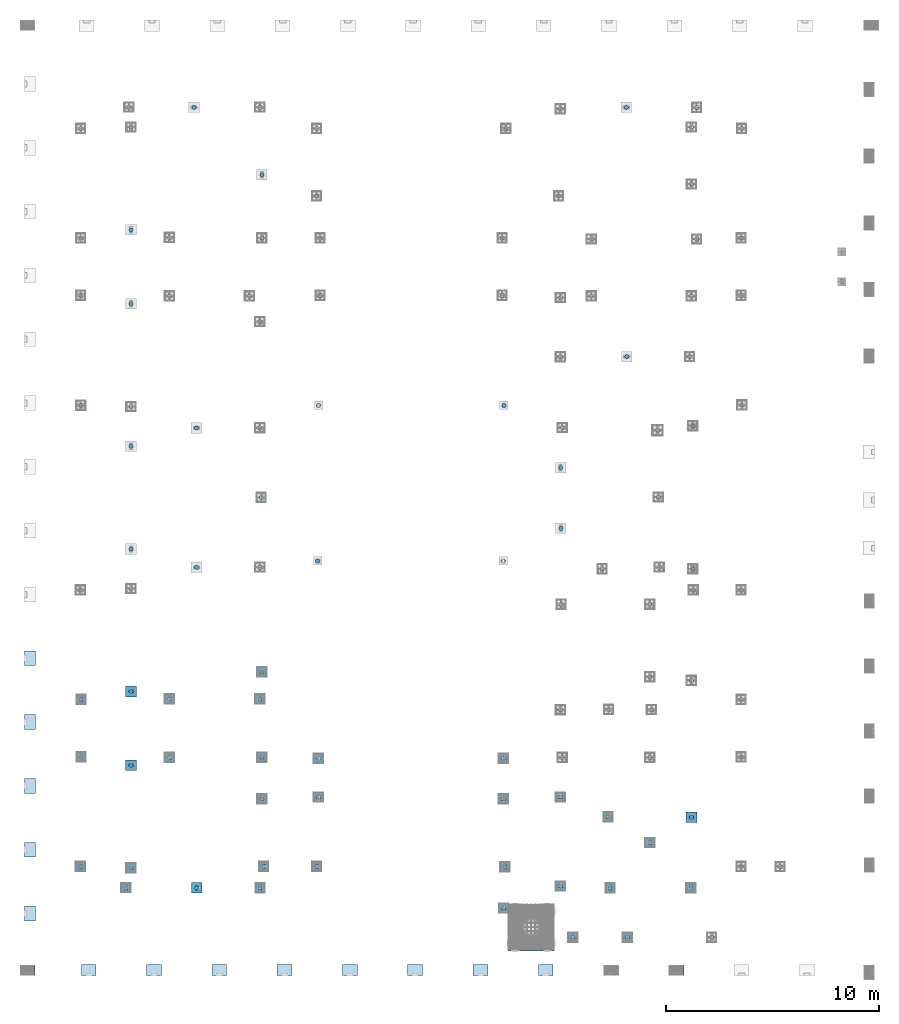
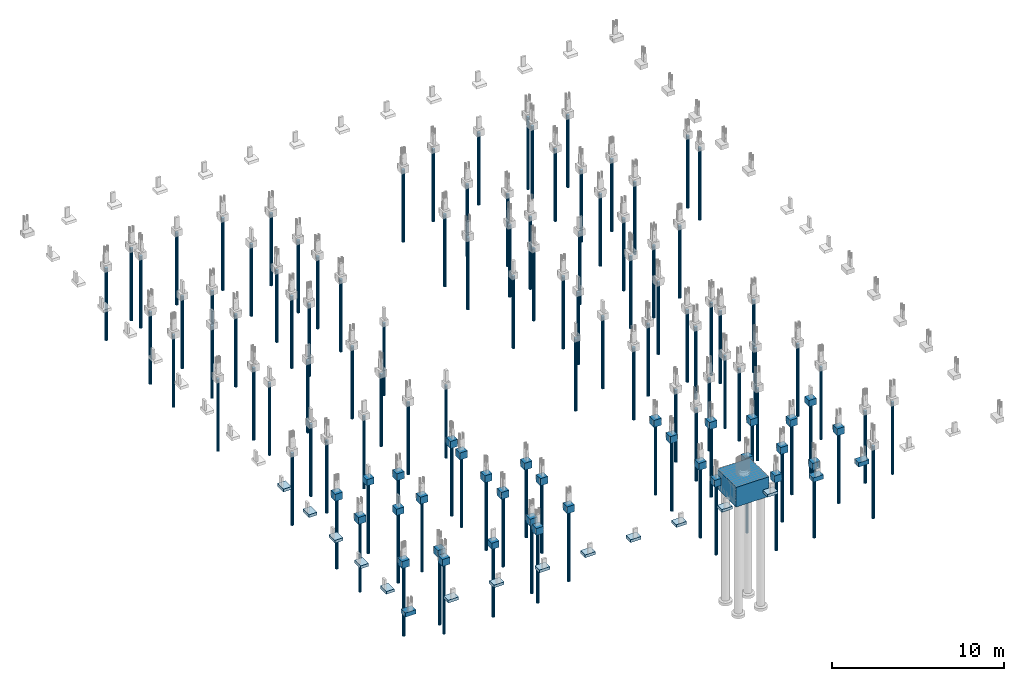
# One storey, part 1 of 119: 114 piles, 49 footings.
"""IFC4 building model written with IfcOpenShell, lengths in centimetres."""

import ifcopenshell
import ifcopenshell.guid

model = None  # the IFC model being written
_history = None  # IfcOwnerHistory: only IFC2X3 demands one
_inside = {}  # id of a spatial element -> (the spatial element, [elements in it])
_under = {}  # id of a project, library or spatial element -> (it, [spatial elements below it])
_declared = {}  # id of a project -> (the project, [libraries it declares])
_typed = {}  # id of a type object -> (the type object, [elements of that type])
_made_of = {}  # id of a material, layer set ... -> (it, [elements and type objects made of it])


def new_model(schema):
    """Start an empty IFC model of exactly this schema.

    Asked for "IFC4X3", IfcOpenShell would pick the latest addendum, in which some entities
    have other attributes; the version numbers below select the first issue.
    IFC2X3 requires an IfcOwnerHistory on every rooted entity: one is made here for all.
    """
    global model, _history
    if schema == "IFC4X3":
        model = ifcopenshell.file(schema_version=(4, 3, 0, 0))
    else:
        model = ifcopenshell.file(schema=schema)
    _inside.clear()
    _under.clear()
    _declared.clear()
    _typed.clear()
    _made_of.clear()
    _history = None
    if model.schema == "IFC2X3":
        org = make("IfcOrganization", Name="unknown")
        user = make(
            "IfcPersonAndOrganization",
            ThePerson=make("IfcPerson", FamilyName="unknown"),
            TheOrganization=org,
        )
        app = make(
            "IfcApplication",
            ApplicationDeveloper=org,
            Version="unknown",
            ApplicationFullName="unknown",
            ApplicationIdentifier="unknown",
        )
        _history = make(
            "IfcOwnerHistory",
            OwningUser=user,
            OwningApplication=app,
            ChangeAction="ADDED",
            CreationDate=0,
        )
    return model


def make(cls, **values):
    """One entity of the class cls with the attributes given. An attribute that is None is left unset."""
    return model.create_entity(
        cls, **{name: value for name, value in values.items() if value is not None}
    )


def rooted(cls, **values):
    """An entity with a GlobalId (a new one), such as an element, a storey or a relation."""
    return make(cls, GlobalId=ifcopenshell.guid.new(), OwnerHistory=_history, **values)


def si_unit(unit_type, name, prefix=None):
    """IfcSIUnit, for example si_unit("LENGTHUNIT", "METRE", prefix="MILLI")."""
    return make("IfcSIUnit", UnitType=unit_type, Prefix=prefix, Name=name)


def derived_unit(unit_type, elements):
    """IfcDerivedUnit: a product of units, each with its exponent."""
    return make(
        "IfcDerivedUnit",
        Elements=[
            make("IfcDerivedUnitElement", Unit=unit, Exponent=power)
            for unit, power in elements
        ],
        UnitType=unit_type,
    )


def assignment(units):
    """IfcUnitAssignment: the units of a project."""
    return None if units is None else make("IfcUnitAssignment", Units=units)


def point(xyz):
    """IfcCartesianPoint."""
    return None if xyz is None else make("IfcCartesianPoint", Coordinates=xyz)


def direction(xyz):
    """IfcDirection."""
    return None if xyz is None else make("IfcDirection", DirectionRatios=xyz)


def frame(location, z_axis=None, x_axis=None):
    """IfcAxis2Placement3D, a coordinate frame: its origin and axes. An axis left out is left unset."""
    return make(
        "IfcAxis2Placement3D",
        Location=point(location),
        Axis=direction(z_axis),
        RefDirection=direction(x_axis),
    )


def frame_2d(location, x_axis=None):
    """IfcAxis2Placement2D, a coordinate frame in the plane: its origin and x axis."""
    return make(
        "IfcAxis2Placement2D", Location=point(location), RefDirection=direction(x_axis)
    )


def origin_with_axes():
    """The frame at (0, 0, 0) with the z axis (0, 0, 1) and the x axis (1, 0, 0) written out."""
    return frame((0.0, 0.0, 0.0), z_axis=(0.0, 0.0, 1.0), x_axis=(1.0, 0.0, 0.0))


def origin_2d_with_axis():
    """The frame at (0, 0) in the plane with the x axis (1, 0) written out."""
    return frame_2d((0.0, 0.0), x_axis=(1.0, 0.0))


def place(relative_to, where):
    """IfcLocalPlacement: puts the frame where relative to a parent placement (None: the world)."""
    return make(
        "IfcLocalPlacement", PlacementRelTo=relative_to, RelativePlacement=where
    )


def context(
    kind, dimensions, precision=None, world=None, true_north=None, identifier=None
):
    """IfcGeometricRepresentationContext, for example the 3D "Model" context."""
    return make(
        "IfcGeometricRepresentationContext",
        ContextIdentifier=identifier,
        ContextType=kind,
        CoordinateSpaceDimension=dimensions,
        Precision=precision,
        WorldCoordinateSystem=world,
        TrueNorth=true_north,
    )


def project(units=None, contexts=None):
    """IfcProject with its units and contexts."""
    return rooted(
        "IfcProject",
        Name="project",
        RepresentationContexts=contexts,
        UnitsInContext=assignment(units),
    )


def spatial(cls, under=None, at=None, **own):
    """A site, building, storey or space (cls), placed at a placement, below another one or the project."""
    s = rooted(cls, ObjectPlacement=at, **own)
    if under is not None:
        _under.setdefault(under.id(), (under, []))[1].append(s)
    return s


def profile(cls, at=None, kind="AREA", **sizes):
    """A parametric profile (cls). Its sizes go by their IFC names, for example OverallWidth=200.0."""
    return make(cls, ProfileType=kind, Position=at, **sizes)


def circle(**sizes):
    """IfcCircleProfileDef."""
    return profile("IfcCircleProfileDef", **sizes)


def extrude(swept, where, along, depth):
    """IfcExtrudedAreaSolid: the profile swept, set in the frame where, extruded along a direction by depth."""
    return make(
        "IfcExtrudedAreaSolid",
        SweptArea=swept,
        Position=where,
        ExtrudedDirection=direction(along),
        Depth=depth,
    )


def faces_of(points, faces, orient=None, outer=None):
    """IfcFace entities. A face is a list of loops; a loop is a list of indices into points, from 0.

    orient and outer hold one flag for each loop. By default every Orientation is true, the
    first loop of a face is its IfcFaceOuterBound and the others are IfcFaceBound.
    """
    made = []
    for i, loops in enumerate(faces):
        bounds = []
        for j, loop in enumerate(loops):
            is_outer = j == 0 if outer is None else outer[i][j]
            bounds.append(
                make(
                    "IfcFaceOuterBound" if is_outer else "IfcFaceBound",
                    Bound=make("IfcPolyLoop", Polygon=[points[k] for k in loop]),
                    Orientation=True if orient is None else orient[i][j],
                )
            )
        made.append(make("IfcFace", Bounds=bounds))
    return made


def faceted_brep(points, faces, orient=None, outer=None, voids=None):
    """IfcFacetedBrep: a solid bounded by flat faces; with voids (closed shells), ...WithVoids."""
    shared = [point(p) for p in points]
    hull = make("IfcClosedShell", CfsFaces=faces_of(shared, faces, orient, outer))
    if voids is None:
        return make("IfcFacetedBrep", Outer=hull)
    return make(
        "IfcFacetedBrepWithVoids",
        Outer=hull,
        Voids=[
            make(cls, CfsFaces=faces_of(shared, fs, o, b)) for cls, fs, o, b in voids
        ],
    )


def shape(context_of_items, identifier, shape_type, items):
    """IfcShapeRepresentation: the items that make up one representation, for example the "Body"."""
    return make(
        "IfcShapeRepresentation",
        ContextOfItems=context_of_items,
        RepresentationIdentifier=identifier,
        RepresentationType=shape_type,
        Items=items,
    )


def material(Name=None, Category=None):
    """IfcMaterial."""
    return make("IfcMaterial", Name=Name, Category=Category)


def made_of(thing, what):
    """Note that an element or type object is made of a material, layer set ...; save() writes the relation."""
    if what is not None:
        _made_of.setdefault(what.id(), (what, []))[1].append(thing)
    return thing


def element(
    cls,
    number,
    at=None,
    inside=None,
    cuts=None,
    type_object=None,
    material=None,
    context=None,
    identifier="Body",
    shape_type=None,
    held_by="IfcProductDefinitionShape",
    body=None,
    shapes=None,
    **own,
):
    """One element of the class cls, such as IfcWall. Its Tag is "e" and its number.

    at: its placement. inside: the storey or other place that contains it. cuts: it is an
    opening in that element (IfcRelVoidsElement). A single representation is given by context,
    identifier, shape_type and body (its items); several are given by shapes. held_by: the class
    of the entity that holds the representations. save() writes the other relations.
    """
    e = rooted(cls, Tag="e%d" % number, ObjectPlacement=at, **own)
    if body is not None:
        shapes = [shape(context, identifier, shape_type, body)]
    if shapes is not None:
        e.Representation = make(held_by, Representations=shapes)
    if inside is not None:
        _inside.setdefault(inside.id(), (inside, []))[1].append(e)
    if cuts is not None:
        rooted(
            "IfcRelVoidsElement", RelatingBuildingElement=cuts, RelatedOpeningElement=e
        )
    if type_object is not None:
        _typed.setdefault(type_object.id(), (type_object, []))[1].append(e)
    return made_of(e, material)


def aggregate(whole, parts):
    """IfcRelAggregates: a whole, such as a stair, and the parts it consists of."""
    return rooted("IfcRelAggregates", RelatingObject=whole, RelatedObjects=parts)


def save(model, path):
    """Write the relations noted so far, then the file.

    IfcRelAggregates (storeys below a building ...), IfcRelContainedInSpatialStructure (elements
    in a storey), IfcRelDefinesByType, IfcRelAssociatesMaterial and IfcRelDeclares: one each for
    every whole, place, type object, material and project.
    """
    for whole, parts in _under.values():
        aggregate(whole, parts)
    for where, things in _inside.values():
        rooted(
            "IfcRelContainedInSpatialStructure",
            RelatedElements=things,
            RelatingStructure=where,
        )
    for kind, things in _typed.values():
        rooted("IfcRelDefinesByType", RelatedObjects=things, RelatingType=kind)
    for what, things in _made_of.values():
        rooted("IfcRelAssociatesMaterial", RelatedObjects=things, RelatingMaterial=what)
    for by, libraries in _declared.values():
        rooted("IfcRelDeclares", RelatingContext=by, RelatedDefinitions=libraries)
    model.write(path)


model = new_model("IFC4")

# Units and contexts
model_context = context("Model", 3, precision=1e-05, world=origin_with_axes(), identifier="Body")
ifc_project = project(units=[si_unit("LENGTHUNIT", "METRE", prefix="CENTI"), si_unit("VOLUMEUNIT", "CUBIC_METRE"), si_unit("AREAUNIT", "SQUARE_METRE"), si_unit("POWERUNIT", "WATT"), si_unit("LUMINOUSFLUXUNIT", "LUMEN"), si_unit("ELECTRICCURRENTUNIT", "AMPERE"), si_unit("PRESSUREUNIT", "PASCAL", prefix="KILO"), si_unit("MASSUNIT", "GRAM", prefix="KILO"), si_unit("PLANEANGLEUNIT", "RADIAN"), derived_unit("VOLUMETRICFLOWRATEUNIT", [(si_unit("LENGTHUNIT", "METRE"), 3), (si_unit("TIMEUNIT", "SECOND"), -1)])], contexts=[model_context])

# Site, building, storey
site_placement = place(None, frame((-4000.0, 0.0, 0.0), z_axis=(0.0, 0.0, 1.0), x_axis=(1.0, 0.0, 0.0)))
site = spatial("IfcSite", under=ifc_project, at=site_placement, Name="PADRÃO")
building_placement = place(site_placement, frame((0.0, 0.0, -14.0)))
building = spatial("IfcBuilding", under=site, at=building_placement, Name="CRECHE PRÉ-ESCOLA TIPO 2")
storey_placement = place(building_placement, origin_with_axes())
storey = spatial("IfcBuildingStorey", under=building, at=storey_placement, Name="FUNDAÇÃO", CompositionType="ELEMENT", Elevation=-14.0)

# Footings
ifc_material = material(Name="Concreto")
footing_1_placement = place(storey_placement, frame((28.5, 1494.5, -69.0), z_axis=(0.0, 0.0, 1.0), x_axis=(1.0, 0.0, 0.0)))
element("IfcFooting", 1, at=footing_1_placement, inside=storey, material=ifc_material, Name="P101", PredefinedType="PAD_FOOTING", context=model_context, shape_type="SolidModel", body=[
    faceted_brep([(-27.0, 35.0, -20.0), (27.0, 35.0, -20.0), (27.0, -35.0, -20.0), (-27.0, -35.0, -20.0), (-27.0, -35.0, 0.0), (27.0, -35.0, 0.0), (27.0, 35.0, 0.0), (-27.0, 35.0, 0.0)], [[[0, 1, 2, 3]], [[4, 5, 6, 7]], [[4, 3, 5]], [[3, 2, 5]], [[5, 2, 6]], [[2, 1, 6]], [[6, 1, 7]], [[1, 0, 7]], [[7, 0, 4]], [[0, 3, 4]]]),
])
footing_2_placement = place(storey_placement, frame((1118.72, 1430.5, -80.0), z_axis=(0.0, 0.0, 1.0), x_axis=(1.0, 0.0, 0.0)))
element("IfcFooting", 2, at=footing_2_placement, inside=storey, material=ifc_material, Name="P102", context=model_context, shape_type="SolidModel", body=[
    faceted_brep([(25.0, 25.0, -50.0), (25.0, -25.0, -50.0), (-25.0, -25.0, -50.0), (-25.0, 25.0, -50.0), (-25.0, 25.0, 0.0), (-25.0, -25.0, 0.0), (25.0, -25.0, 0.0), (25.0, 25.0, 0.0)], [[[0, 1, 2, 3]], [[4, 5, 6, 7]], [[4, 3, 5]], [[3, 2, 5]], [[5, 2, 6]], [[2, 1, 6]], [[6, 1, 7]], [[1, 0, 7]], [[7, 0, 4]], [[0, 3, 4]]]),
])
footing_3_placement = place(storey_placement, frame((269.5, 1301.5, -80.0), z_axis=(0.0, 0.0, 1.0), x_axis=(1.0, 0.0, 0.0)))
element("IfcFooting", 3, at=footing_3_placement, inside=storey, material=ifc_material, Name="P106", context=model_context, shape_type="SolidModel", body=[
    faceted_brep([(25.0, -25.0, -50.0), (-25.0, -25.0, -50.0), (-25.0, 25.0, -50.0), (25.0, 25.0, -50.0), (25.0, 25.0, 0.0), (-25.0, 25.0, 0.0), (-25.0, -25.0, 0.0), (25.0, -25.0, 0.0)], [[[0, 1, 2, 3]], [[4, 5, 6, 7]], [[4, 3, 5]], [[3, 2, 5]], [[5, 2, 6]], [[2, 1, 6]], [[6, 1, 7]], [[1, 0, 7]], [[7, 0, 4]], [[0, 3, 4]]]),
])
footing_4_placement = place(storey_placement, frame((503.69, 1338.51, -80.0), z_axis=(0.0, 0.0, 1.0), x_axis=(1.0, 0.0, 0.0)))
element("IfcFooting", 4, at=footing_4_placement, inside=storey, material=ifc_material, Name="P107", context=model_context, shape_type="SolidModel", body=[
    faceted_brep([(25.0, 25.0, -45.0), (25.0, -25.0, -45.0), (-25.0, -25.0, -45.0), (-25.0, 25.0, -45.0), (-25.0, 25.0, 0.0), (-25.0, -25.0, 0.0), (25.0, -25.0, 0.0), (25.0, 25.0, 0.0)], [[[0, 1, 2, 3]], [[4, 5, 6, 7]], [[4, 3, 5]], [[3, 2, 5]], [[5, 2, 6]], [[2, 1, 6]], [[6, 1, 7]], [[1, 0, 7]], [[7, 0, 4]], [[0, 3, 4]]]),
])
footing_5_placement = place(storey_placement, frame((685.0, 1302.5, -80.0), z_axis=(0.0, 0.0, 1.0), x_axis=(1.0, 0.0, 0.0)))
element("IfcFooting", 5, at=footing_5_placement, inside=storey, material=ifc_material, Name="P108", context=model_context, shape_type="SolidModel", body=[
    faceted_brep([(25.0, -25.0, -50.0), (-25.0, -25.0, -50.0), (-25.0, 25.0, -50.0), (25.0, 25.0, -50.0), (25.0, 25.0, 0.0), (-25.0, 25.0, 0.0), (-25.0, -25.0, 0.0), (25.0, -25.0, 0.0)], [[[0, 1, 2, 3]], [[4, 5, 6, 7]], [[4, 3, 5]], [[3, 2, 5]], [[5, 2, 6]], [[2, 1, 6]], [[6, 1, 7]], [[1, 0, 7]], [[7, 0, 4]], [[0, 3, 4]]]),
])
footing_6_placement = place(storey_placement, frame((1109.72, 1302.5, -80.0), z_axis=(0.0, 0.0, 1.0), x_axis=(1.0, 0.0, 0.0)))
element("IfcFooting", 6, at=footing_6_placement, inside=storey, material=ifc_material, Name="P109", context=model_context, shape_type="SolidModel", body=[
    faceted_brep([(-25.0, 25.0, -50.0), (25.0, 25.0, -50.0), (25.0, -25.0, -50.0), (-25.0, -25.0, -50.0), (-25.0, -25.0, 0.0), (25.0, -25.0, 0.0), (25.0, 25.0, 0.0), (-25.0, 25.0, 0.0)], [[[0, 1, 2, 3]], [[4, 5, 6, 7]], [[4, 3, 5]], [[3, 2, 5]], [[5, 2, 6]], [[2, 1, 6]], [[6, 1, 7]], [[1, 0, 7]], [[7, 0, 4]], [[0, 3, 4]]]),
])
footing_7_placement = place(storey_placement, frame((28.5, 1194.5, -69.0), z_axis=(0.0, 0.0, 1.0), x_axis=(1.0, 0.0, 0.0)))
element("IfcFooting", 7, at=footing_7_placement, inside=storey, material=ifc_material, Name="P114", PredefinedType="PAD_FOOTING", context=model_context, shape_type="SolidModel", body=[
    faceted_brep([(-27.0, 35.0, -20.0), (27.0, 35.0, -20.0), (27.0, -35.0, -20.0), (-27.0, -35.0, -20.0), (-27.0, -35.0, 0.0), (27.0, -35.0, 0.0), (27.0, 35.0, 0.0), (-27.0, 35.0, 0.0)], [[[0, 1, 2, 3]], [[4, 5, 6, 7]], [[4, 3, 5]], [[3, 2, 5]], [[5, 2, 6]], [[2, 1, 6]], [[6, 1, 7]], [[1, 0, 7]], [[7, 0, 4]], [[0, 3, 4]]]),
])
footing_8_placement = place(storey_placement, frame((269.5, 1030.5, -80.0), z_axis=(0.0, 0.0, 1.0), x_axis=(1.0, 0.0, 0.0)))
element("IfcFooting", 8, at=footing_8_placement, inside=storey, material=ifc_material, Name="P116", context=model_context, shape_type="SolidModel", body=[
    faceted_brep([(25.0, -25.0, -50.0), (-25.0, -25.0, -50.0), (-25.0, 25.0, -50.0), (25.0, 25.0, -50.0), (25.0, 25.0, 0.0), (-25.0, 25.0, 0.0), (-25.0, -25.0, 0.0), (25.0, -25.0, 0.0)], [[[0, 1, 2, 3]], [[4, 5, 6, 7]], [[4, 3, 5]], [[3, 2, 5]], [[5, 2, 6]], [[2, 1, 6]], [[6, 1, 7]], [[1, 0, 7]], [[7, 0, 4]], [[0, 3, 4]]]),
])
footing_9_placement = place(storey_placement, frame((503.57, 991.51, -80.0), z_axis=(0.0, 0.0, 1.0), x_axis=(1.0, 0.0, 0.0)))
element("IfcFooting", 9, at=footing_9_placement, inside=storey, material=ifc_material, Name="P117", context=model_context, shape_type="SolidModel", body=[
    faceted_brep([(25.0, 25.0, -45.0), (25.0, -25.0, -45.0), (-25.0, -25.0, -45.0), (-25.0, 25.0, -45.0), (-25.0, 25.0, 0.0), (-25.0, -25.0, 0.0), (25.0, -25.0, 0.0), (25.0, 25.0, 0.0)], [[[0, 1, 2, 3]], [[4, 5, 6, 7]], [[4, 3, 5]], [[3, 2, 5]], [[5, 2, 6]], [[2, 1, 6]], [[6, 1, 7]], [[1, 0, 7]], [[7, 0, 4]], [[0, 3, 4]]]),
])
footing_10_placement = place(storey_placement, frame((685.0, 1027.51, -80.0), z_axis=(0.0, 0.0, 1.0), x_axis=(1.0, 0.0, 0.0)))
element("IfcFooting", 10, at=footing_10_placement, inside=storey, material=ifc_material, Name="P118", context=model_context, shape_type="SolidModel", body=[
    faceted_brep([(25.0, -25.0, -50.0), (-25.0, -25.0, -50.0), (-25.0, 25.0, -50.0), (25.0, 25.0, -50.0), (25.0, 25.0, 0.0), (-25.0, 25.0, 0.0), (-25.0, -25.0, 0.0), (25.0, -25.0, 0.0)], [[[0, 1, 2, 3]], [[4, 5, 6, 7]], [[4, 3, 5]], [[3, 2, 5]], [[5, 2, 6]], [[2, 1, 6]], [[6, 1, 7]], [[1, 0, 7]], [[7, 0, 4]], [[0, 3, 4]]]),
])
footing_11_placement = place(storey_placement, frame((1118.72, 1028.5, -80.0), z_axis=(0.0, 0.0, 1.0), x_axis=(1.0, 0.0, 0.0)))
element("IfcFooting", 11, at=footing_11_placement, inside=storey, material=ifc_material, Name="P119", context=model_context, shape_type="SolidModel", body=[
    faceted_brep([(25.0, 25.0, -50.0), (25.0, -25.0, -50.0), (-25.0, -25.0, -50.0), (-25.0, 25.0, -50.0), (-25.0, 25.0, 0.0), (-25.0, -25.0, 0.0), (25.0, -25.0, 0.0), (25.0, 25.0, 0.0)], [[[0, 1, 2, 3]], [[4, 5, 6, 7]], [[4, 3, 5]], [[3, 2, 5]], [[5, 2, 6]], [[2, 1, 6]], [[6, 1, 7]], [[1, 0, 7]], [[7, 0, 4]], [[0, 3, 4]]]),
])
footing_12_placement = place(storey_placement, frame((1384.84, 1023.51, -80.0), z_axis=(0.0, 0.0, 1.0), x_axis=(1.0, 0.0, 0.0)))
element("IfcFooting", 12, at=footing_12_placement, inside=storey, material=ifc_material, Name="P120", context=model_context, shape_type="SolidModel", body=[
    faceted_brep([(-25.0, -25.0, -50.0), (-25.0, 25.0, -50.0), (25.0, 25.0, -50.0), (25.0, -25.0, -50.0), (25.0, -25.0, 0.0), (25.0, 25.0, 0.0), (-25.0, 25.0, 0.0), (-25.0, -25.0, 0.0)], [[[0, 1, 2, 3]], [[4, 5, 6, 7]], [[4, 3, 5]], [[3, 2, 5]], [[5, 2, 6]], [[2, 1, 6]], [[6, 1, 7]], [[1, 0, 7]], [[7, 0, 4]], [[0, 3, 4]]]),
])
footing_13_placement = place(storey_placement, frame((2254.49, 1023.51, -80.0), z_axis=(0.0, 0.0, 1.0), x_axis=(1.0, 0.0, 0.0)))
element("IfcFooting", 13, at=footing_13_placement, inside=storey, material=ifc_material, Name="P121", context=model_context, shape_type="SolidModel", body=[
    faceted_brep([(25.0, 25.0, -50.0), (25.0, -25.0, -50.0), (-25.0, -25.0, -50.0), (-25.0, 25.0, -50.0), (-25.0, 25.0, 0.0), (-25.0, -25.0, 0.0), (25.0, -25.0, 0.0), (25.0, 25.0, 0.0)], [[[0, 1, 2, 3]], [[4, 5, 6, 7]], [[4, 3, 5]], [[3, 2, 5]], [[5, 2, 6]], [[2, 1, 6]], [[6, 1, 7]], [[1, 0, 7]], [[7, 0, 4]], [[0, 3, 4]]]),
])
footing_14_placement = place(storey_placement, frame((28.5, 894.5, -69.0), z_axis=(0.0, 0.0, 1.0), x_axis=(1.0, 0.0, 0.0)))
element("IfcFooting", 14, at=footing_14_placement, inside=storey, material=ifc_material, Name="P125", PredefinedType="PAD_FOOTING", context=model_context, shape_type="SolidModel", body=[
    faceted_brep([(-27.0, 35.0, -20.0), (27.0, 35.0, -20.0), (27.0, -35.0, -20.0), (-27.0, -35.0, -20.0), (-27.0, -35.0, 0.0), (27.0, -35.0, 0.0), (27.0, 35.0, 0.0), (-27.0, 35.0, 0.0)], [[[0, 1, 2, 3]], [[4, 5, 6, 7]], [[4, 3, 5]], [[3, 2, 5]], [[5, 2, 6]], [[2, 1, 6]], [[6, 1, 7]], [[1, 0, 7]], [[7, 0, 4]], [[0, 3, 4]]]),
])
for number, where, z_axis, x_axis, name in (
    (15, (1118.72, 833.5, -80.0), (0.0, 0.0, 1.0), (1.0, 0.0, 0.0), "P126"),
    (16, (1384.84, 841.1, -80.0), (0.0, 0.0, 1.0), (1.0, 0.0, 0.0), "P127"),
    (17, (2254.49, 832.52, -80.0), (0.0, 0.0, 1.0), (1.0, 0.0, 0.0), "P128"),
    (18, (2523.5, 841.52, -80.0), (0.0, 0.0, 1.0), (1.0, 0.0, 0.0), "P129"),
    (19, (2747.52, 749.08, -80.0), (0.0, 0.0, 1.0), (1.0, 0.0, 0.0), "P131"),
):
    element("IfcFooting", number, at=place(storey_placement, frame(where, z_axis=z_axis, x_axis=x_axis)), inside=storey, material=ifc_material, Name=name, context=model_context, shape_type="SolidModel", body=[
        faceted_brep([(25.0, 25.0, -50.0), (25.0, -25.0, -50.0), (-25.0, -25.0, -50.0), (-25.0, 25.0, -50.0), (-25.0, 25.0, 0.0), (-25.0, -25.0, 0.0), (25.0, -25.0, 0.0), (25.0, 25.0, 0.0)], [[[0, 1, 2, 3]], [[4, 5, 6, 7]], [[4, 3, 5]], [[3, 2, 5]], [[5, 2, 6]], [[2, 1, 6]], [[6, 1, 7]], [[1, 0, 7]], [[7, 0, 4]], [[0, 3, 4]]]),
    ])
footing_15_placement = place(storey_placement, frame((3138.5, 746.58, -80.0), z_axis=(0.0, 0.0, 1.0), x_axis=(1.0, 0.0, 0.0)))
element("IfcFooting", 20, at=footing_15_placement, inside=storey, material=ifc_material, Name="P132", context=model_context, shape_type="SolidModel", body=[
    faceted_brep([(25.0, 25.0, -45.0), (25.0, -25.0, -45.0), (-25.0, -25.0, -45.0), (-25.0, 25.0, -45.0), (-25.0, 25.0, 0.0), (-25.0, -25.0, 0.0), (25.0, -25.0, 0.0), (25.0, 25.0, 0.0)], [[[0, 1, 2, 3]], [[4, 5, 6, 7]], [[4, 3, 5]], [[3, 2, 5]], [[5, 2, 6]], [[2, 1, 6]], [[6, 1, 7]], [[1, 0, 7]], [[7, 0, 4]], [[0, 3, 4]]]),
])
footing_16_placement = place(storey_placement, frame((28.5, 594.5, -69.0), z_axis=(0.0, 0.0, 1.0), x_axis=(1.0, 0.0, 0.0)))
element("IfcFooting", 21, at=footing_16_placement, inside=storey, material=ifc_material, Name="P133", PredefinedType="PAD_FOOTING", context=model_context, shape_type="SolidModel", body=[
    faceted_brep([(-27.0, 35.0, -20.0), (27.0, 35.0, -20.0), (27.0, -35.0, -20.0), (-27.0, -35.0, -20.0), (-27.0, -35.0, 0.0), (27.0, -35.0, 0.0), (27.0, 35.0, 0.0), (-27.0, 35.0, 0.0)], [[[0, 1, 2, 3]], [[4, 5, 6, 7]], [[4, 3, 5]], [[3, 2, 5]], [[5, 2, 6]], [[2, 1, 6]], [[6, 1, 7]], [[1, 0, 7]], [[7, 0, 4]], [[0, 3, 4]]]),
])
footing_17_placement = place(storey_placement, frame((2943.45, 627.58, -80.0), z_axis=(0.0, 0.0, 1.0), x_axis=(1.0, 0.0, 0.0)))
element("IfcFooting", 22, at=footing_17_placement, inside=storey, material=ifc_material, Name="P134", context=model_context, shape_type="SolidModel", body=[
    faceted_brep([(-25.0, 25.0, -50.0), (25.0, 25.0, -50.0), (25.0, -25.0, -50.0), (-25.0, -25.0, -50.0), (-25.0, -25.0, 0.0), (25.0, -25.0, 0.0), (25.0, 25.0, 0.0), (-25.0, 25.0, 0.0)], [[[0, 1, 2, 3]], [[4, 5, 6, 7]], [[4, 3, 5]], [[3, 2, 5]], [[5, 2, 6]], [[2, 1, 6]], [[6, 1, 7]], [[1, 0, 7]], [[7, 0, 4]], [[0, 3, 4]]]),
])
footing_18_placement = place(storey_placement, frame((266.0, 515.0, -80.0), z_axis=(0.0, 0.0, 1.0), x_axis=(1.0, 0.0, 0.0)))
element("IfcFooting", 23, at=footing_18_placement, inside=storey, material=ifc_material, Name="P135", context=model_context, shape_type="SolidModel", body=[
    faceted_brep([(25.0, -25.0, -50.0), (-25.0, -25.0, -50.0), (-25.0, 25.0, -50.0), (25.0, 25.0, -50.0), (25.0, 25.0, 0.0), (-25.0, 25.0, 0.0), (-25.0, -25.0, 0.0), (25.0, -25.0, 0.0)], [[[0, 1, 2, 3]], [[4, 5, 6, 7]], [[4, 3, 5]], [[3, 2, 5]], [[5, 2, 6]], [[2, 1, 6]], [[6, 1, 7]], [[1, 0, 7]], [[7, 0, 4]], [[0, 3, 4]]]),
])
footing_19_placement = place(storey_placement, frame((503.57, 508.51, -80.0), z_axis=(0.0, 0.0, 1.0), x_axis=(1.0, 0.0, 0.0)))
element("IfcFooting", 24, at=footing_19_placement, inside=storey, material=ifc_material, Name="P136", context=model_context, shape_type="SolidModel", body=[
    faceted_brep([(25.0, 25.0, -50.0), (25.0, -25.0, -50.0), (-25.0, -25.0, -50.0), (-25.0, 25.0, -50.0), (-25.0, 25.0, 0.0), (-25.0, -25.0, 0.0), (25.0, -25.0, 0.0), (25.0, 25.0, 0.0)], [[[0, 1, 2, 3]], [[4, 5, 6, 7]], [[4, 3, 5]], [[3, 2, 5]], [[5, 2, 6]], [[2, 1, 6]], [[6, 1, 7]], [[1, 0, 7]], [[7, 0, 4]], [[0, 3, 4]]]),
])
for number, where, z_axis, x_axis, name in (
    (25, (1127.72, 515.01, -80.0), (0.0, 0.0, 1.0), (1.0, 0.0, 0.0), "P137"),
    (26, (1376.84, 515.01, -80.0), (0.0, 0.0, 1.0), (1.0, 0.0, 0.0), "P138"),
):
    element("IfcFooting", number, at=place(storey_placement, frame(where, z_axis=z_axis, x_axis=x_axis)), inside=storey, material=ifc_material, Name=name, context=model_context, shape_type="SolidModel", body=[
        faceted_brep([(25.0, -25.0, -50.0), (-25.0, -25.0, -50.0), (-25.0, 25.0, -50.0), (25.0, 25.0, -50.0), (25.0, 25.0, 0.0), (-25.0, 25.0, 0.0), (-25.0, -25.0, 0.0), (25.0, -25.0, 0.0)], [[[0, 1, 2, 3]], [[4, 5, 6, 7]], [[4, 3, 5]], [[3, 2, 5]], [[5, 2, 6]], [[2, 1, 6]], [[6, 1, 7]], [[1, 0, 7]], [[7, 0, 4]], [[0, 3, 4]]]),
    ])
footing_20_placement = place(storey_placement, frame((2262.48, 513.52, -80.0), z_axis=(0.0, 0.0, 1.0), x_axis=(1.0, 0.0, 0.0)))
element("IfcFooting", 27, at=footing_20_placement, inside=storey, material=ifc_material, Name="P139", context=model_context, shape_type="SolidModel", body=[
    faceted_brep([(-25.0, 25.0, -50.0), (25.0, 25.0, -50.0), (25.0, -25.0, -50.0), (-25.0, -25.0, -50.0), (-25.0, -25.0, 0.0), (25.0, -25.0, 0.0), (25.0, 25.0, 0.0), (-25.0, 25.0, 0.0)], [[[0, 1, 2, 3]], [[4, 5, 6, 7]], [[4, 3, 5]], [[3, 2, 5]], [[5, 2, 6]], [[2, 1, 6]], [[6, 1, 7]], [[1, 0, 7]], [[7, 0, 4]], [[0, 3, 4]]]),
])
footing_21_placement = place(storey_placement, frame((480.0, 416.0, -80.0), z_axis=(0.0, 0.0, 1.0), x_axis=(1.0, 0.0, 0.0)))
element("IfcFooting", 28, at=footing_21_placement, inside=storey, material=ifc_material, Name="P143", context=model_context, shape_type="SolidModel", body=[
    faceted_brep([(25.0, -25.0, -50.0), (-25.0, -25.0, -50.0), (-25.0, 25.0, -50.0), (25.0, 25.0, -50.0), (25.0, 25.0, 0.0), (-25.0, 25.0, 0.0), (-25.0, -25.0, 0.0), (25.0, -25.0, 0.0)], [[[0, 1, 2, 3]], [[4, 5, 6, 7]], [[4, 3, 5]], [[3, 2, 5]], [[5, 2, 6]], [[2, 1, 6]], [[6, 1, 7]], [[1, 0, 7]], [[7, 0, 4]], [[0, 3, 4]]]),
])
footing_22_placement = place(storey_placement, frame((811.79, 415.0, -80.0), z_axis=(0.0, 0.0, 1.0), x_axis=(1.0, 0.0, 0.0)))
element("IfcFooting", 29, at=footing_22_placement, inside=storey, material=ifc_material, Name="P144", context=model_context, shape_type="SolidModel", body=[
    faceted_brep([(25.0, -25.0, -45.0), (-25.0, -25.0, -45.0), (-25.0, 25.0, -45.0), (25.0, 25.0, -45.0), (25.0, 25.0, 0.0), (-25.0, 25.0, 0.0), (-25.0, -25.0, 0.0), (25.0, -25.0, 0.0)], [[[0, 1, 2, 3]], [[4, 5, 6, 7]], [[4, 3, 5]], [[3, 2, 5]], [[5, 2, 6]], [[2, 1, 6]], [[6, 1, 7]], [[1, 0, 7]], [[7, 0, 4]], [[0, 3, 4]]]),
])
footing_23_placement = place(storey_placement, frame((1110.72, 415.01, -80.0), z_axis=(0.0, 0.0, 1.0), x_axis=(1.0, 0.0, 0.0)))
element("IfcFooting", 30, at=footing_23_placement, inside=storey, material=ifc_material, Name="P145", context=model_context, shape_type="SolidModel", body=[
    faceted_brep([(25.0, -25.0, -50.0), (-25.0, -25.0, -50.0), (-25.0, 25.0, -50.0), (25.0, 25.0, -50.0), (25.0, 25.0, 0.0), (-25.0, 25.0, 0.0), (-25.0, -25.0, 0.0), (25.0, -25.0, 0.0)], [[[0, 1, 2, 3]], [[4, 5, 6, 7]], [[4, 3, 5]], [[3, 2, 5]], [[5, 2, 6]], [[2, 1, 6]], [[6, 1, 7]], [[1, 0, 7]], [[7, 0, 4]], [[0, 3, 4]]]),
])
footing_24_placement = place(storey_placement, frame((2523.5, 423.02, -80.0), z_axis=(0.0, 0.0, 1.0), x_axis=(1.0, 0.0, 0.0)))
element("IfcFooting", 31, at=footing_24_placement, inside=storey, material=ifc_material, Name="P146", context=model_context, shape_type="SolidModel", body=[
    faceted_brep([(25.0, 25.0, -50.0), (25.0, -25.0, -50.0), (-25.0, -25.0, -50.0), (-25.0, 25.0, -50.0), (-25.0, 25.0, 0.0), (-25.0, -25.0, 0.0), (25.0, -25.0, 0.0), (25.0, 25.0, 0.0)], [[[0, 1, 2, 3]], [[4, 5, 6, 7]], [[4, 3, 5]], [[3, 2, 5]], [[5, 2, 6]], [[2, 1, 6]], [[6, 1, 7]], [[1, 0, 7]], [[7, 0, 4]], [[0, 3, 4]]]),
])
for number, where, z_axis, x_axis, name in (
    (32, (2756.46, 415.01, -80.0), (0.0, 0.0, 1.0), (1.0, 0.0, 0.0), "P147"),
    (33, (3136.0, 415.01, -80.0), (0.0, 0.0, 1.0), (1.0, 0.0, 0.0), "P148"),
):
    element("IfcFooting", number, at=place(storey_placement, frame(where, z_axis=z_axis, x_axis=x_axis)), inside=storey, material=ifc_material, Name=name, context=model_context, shape_type="SolidModel", body=[
        faceted_brep([(-25.0, 25.0, -50.0), (25.0, 25.0, -50.0), (25.0, -25.0, -50.0), (-25.0, -25.0, -50.0), (-25.0, -25.0, 0.0), (25.0, -25.0, 0.0), (25.0, 25.0, 0.0), (-25.0, 25.0, 0.0)], [[[0, 1, 2, 3]], [[4, 5, 6, 7]], [[4, 3, 5]], [[3, 2, 5]], [[5, 2, 6]], [[2, 1, 6]], [[6, 1, 7]], [[1, 0, 7]], [[7, 0, 4]], [[0, 3, 4]]]),
    ])
footing_25_placement = place(storey_placement, frame((28.5, 294.5, -69.0), z_axis=(0.0, 0.0, 1.0), x_axis=(1.0, 0.0, 0.0)))
element("IfcFooting", 34, at=footing_25_placement, inside=storey, material=ifc_material, Name="P149", PredefinedType="PAD_FOOTING", context=model_context, shape_type="SolidModel", body=[
    faceted_brep([(-27.0, 35.0, -20.0), (27.0, 35.0, -20.0), (27.0, -35.0, -20.0), (-27.0, -35.0, -20.0), (-27.0, -35.0, 0.0), (27.0, -35.0, 0.0), (27.0, 35.0, 0.0), (-27.0, 35.0, 0.0)], [[[0, 1, 2, 3]], [[4, 5, 6, 7]], [[4, 3, 5]], [[3, 2, 5]], [[5, 2, 6]], [[2, 1, 6]], [[6, 1, 7]], [[1, 0, 7]], [[7, 0, 4]], [[0, 3, 4]]]),
])
footing_26_placement = place(storey_placement, frame((2255.98, 319.02, -80.0), z_axis=(0.0, 0.0, 1.0), x_axis=(1.0, 0.0, 0.0)))
element("IfcFooting", 35, at=footing_26_placement, inside=storey, material=ifc_material, Name="P150", context=model_context, shape_type="SolidModel", body=[
    faceted_brep([(25.0, 25.0, -50.0), (25.0, -25.0, -50.0), (-25.0, -25.0, -50.0), (-25.0, 25.0, -50.0), (-25.0, 25.0, 0.0), (-25.0, -25.0, 0.0), (25.0, -25.0, 0.0), (25.0, 25.0, 0.0)], [[[0, 1, 2, 3]], [[4, 5, 6, 7]], [[4, 3, 5]], [[3, 2, 5]], [[5, 2, 6]], [[2, 1, 6]], [[6, 1, 7]], [[1, 0, 7]], [[7, 0, 4]], [[0, 3, 4]]]),
])
footing_27_placement = place(storey_placement, frame((2385.28, 229.39, -40.0), z_axis=(0.0, 0.0, 1.0), x_axis=(1.0, 0.0, 0.0)))
element("IfcFooting", 36, at=footing_27_placement, inside=storey, material=ifc_material, Name="P151", context=model_context, shape_type="SolidModel", body=[
    faceted_brep([(110.0, -110.0, -140.0), (-110.0, -110.0, -140.0), (-110.0, 110.0, -140.0), (110.0, 110.0, -140.0), (110.0, 110.0, 0.0), (-110.0, 110.0, 0.0), (-110.0, -110.0, 0.0), (110.0, -110.0, 0.0)], [[[0, 1, 2, 3]], [[4, 5, 6, 7]], [[4, 3, 5]], [[3, 2, 5]], [[5, 2, 6]], [[2, 1, 6]], [[6, 1, 7]], [[1, 0, 7]], [[7, 0, 4]], [[0, 3, 4]]]),
])
for number, where, z_axis, x_axis, name in (
    (37, (2581.46, 182.5, -80.0), (0.0, 0.0, 1.0), (1.0, 0.0, 0.0), "P152"),
    (38, (2837.49, 182.5, -80.0), (0.0, 0.0, 1.0), (1.0, 0.0, 0.0), "P153"),
):
    element("IfcFooting", number, at=place(storey_placement, frame(where, z_axis=z_axis, x_axis=x_axis)), inside=storey, material=ifc_material, Name=name, context=model_context, shape_type="SolidModel", body=[
        faceted_brep([(-25.0, -25.0, -50.0), (-25.0, 25.0, -50.0), (25.0, 25.0, -50.0), (25.0, -25.0, -50.0), (25.0, -25.0, 0.0), (25.0, 25.0, 0.0), (-25.0, 25.0, 0.0), (-25.0, -25.0, 0.0)], [[[0, 1, 2, 3]], [[4, 5, 6, 7]], [[4, 3, 5]], [[3, 2, 5]], [[5, 2, 6]], [[2, 1, 6]], [[6, 1, 7]], [[1, 0, 7]], [[7, 0, 4]], [[0, 3, 4]]]),
    ])
footing_28_placement = place(storey_placement, frame((16.5, 27.0, -59.0), z_axis=(0.0, 0.0, 1.0), x_axis=(1.0, 0.0, 0.0)))
element("IfcFooting", 39, at=footing_28_placement, inside=storey, material=ifc_material, Name="P155", PredefinedType="PAD_FOOTING", context=model_context, shape_type="SolidModel", body=[
    faceted_brep([(-35.0, -25.0, -30.0), (-35.0, 25.0, -30.0), (35.0, 25.0, -30.0), (35.0, -25.0, -30.0), (35.0, -25.0, 0.0), (35.0, 25.0, 0.0), (-35.0, 25.0, 0.0), (-35.0, -25.0, 0.0)], [[[0, 1, 2, 3]], [[4, 5, 6, 7]], [[4, 3, 5]], [[3, 2, 5]], [[5, 2, 6]], [[2, 1, 6]], [[6, 1, 7]], [[1, 0, 7]], [[7, 0, 4]], [[0, 3, 4]]]),
])
for number, where, z_axis, x_axis, name in (
    (40, (304.5, 29.01, -69.0), (0.0, 0.0, 1.0), (1.0, 0.0, 0.0), "P156"),
    (41, (611.5, 29.0, -69.0), (0.0, 0.0, 1.0), (1.0, 0.0, 0.0), "P157"),
    (42, (918.5, 29.0, -69.0), (0.0, 0.0, 1.0), (1.0, 0.0, 0.0), "P158"),
    (43, (1225.5, 29.0, -69.0), (0.0, 0.0, 1.0), (1.0, 0.0, 0.0), "P159"),
    (44, (1532.5, 29.0, -69.0), (0.0, 0.0, 1.0), (1.0, 0.0, 0.0), "P160"),
    (45, (1839.5, 29.0, -69.0), (0.0, 0.0, 1.0), (1.0, 0.0, 0.0), "P161"),
    (46, (2146.5, 29.0, -69.0), (0.0, 0.0, 1.0), (1.0, 0.0, 0.0), "P162"),
    (47, (2453.5, 29.0, -69.0), (0.0, 0.0, 1.0), (1.0, 0.0, 0.0), "P163"),
):
    element("IfcFooting", number, at=place(storey_placement, frame(where, z_axis=z_axis, x_axis=x_axis)), inside=storey, material=ifc_material, Name=name, PredefinedType="PAD_FOOTING", context=model_context, shape_type="SolidModel", body=[
        faceted_brep([(-35.0, -27.0, -20.0), (-35.0, 27.0, -20.0), (35.0, 27.0, -20.0), (35.0, -27.0, -20.0), (35.0, -27.0, 0.0), (35.0, 27.0, 0.0), (-35.0, 27.0, 0.0), (-35.0, -27.0, 0.0)], [[[0, 1, 2, 3]], [[4, 5, 6, 7]], [[4, 3, 5]], [[3, 2, 5]], [[5, 2, 6]], [[2, 1, 6]], [[6, 1, 7]], [[1, 0, 7]], [[7, 0, 4]], [[0, 3, 4]]]),
    ])
for number, where, z_axis, x_axis, name in (
    (48, (2760.5, 27.0, -59.0), (0.0, 0.0, 1.0), (1.0, 0.0, 0.0), "P164"),
    (49, (3067.5, 27.0, -59.0), (0.0, 0.0, 1.0), (1.0, 0.0, 0.0), "P165"),
):
    element("IfcFooting", number, at=place(storey_placement, frame(where, z_axis=z_axis, x_axis=x_axis)), inside=storey, material=ifc_material, Name=name, PredefinedType="PAD_FOOTING", context=model_context, shape_type="SolidModel", body=[
        faceted_brep([(-35.0, -25.0, -30.0), (-35.0, 25.0, -30.0), (35.0, 25.0, -30.0), (35.0, -25.0, -30.0), (35.0, -25.0, 0.0), (35.0, 25.0, 0.0), (-35.0, 25.0, 0.0), (-35.0, -25.0, 0.0)], [[[0, 1, 2, 3]], [[4, 5, 6, 7]], [[4, 3, 5]], [[3, 2, 5]], [[5, 2, 6]], [[2, 1, 6]], [[6, 1, 7]], [[1, 0, 7]], [[7, 0, 4]], [[0, 3, 4]]]),
    ])

# Piles
for number, where, z_axis, x_axis, name in (
    (50, (1118.72, 1430.5, -115.0), (0.0, 0.0, 1.0), (1.0, 0.0, 0.0), "E102-1"),
    (51, (2943.24, 1406.51, -115.0), (0.0, 0.0, 1.0), (1.0, 0.0, 0.0), "E104-1"),
    (52, (3138.5, 1389.52, -115.0), (0.0, 0.0, 1.0), (1.0, 0.0, 0.0), "E105-1"),
    (53, (269.5, 1301.5, -115.0), (0.0, 0.0, 1.0), (1.0, 0.0, 0.0), "E106-1"),
    (54, (503.69, 1338.51, -110.0), (0.0, 0.0, 1.0), (1.0, 0.0, 0.0), "E107-1"),
    (55, (685.0, 1302.5, -115.0), (0.0, 0.0, 1.0), (1.0, 0.0, 0.0), "E108-1"),
    (56, (1109.72, 1302.5, -115.0), (0.0, 0.0, 1.0), (1.0, 0.0, 0.0), "E109-1"),
    (57, (2523.5, 1252.08, -115.0), (0.0, 0.0, 1.0), (1.0, 0.0, 0.0), "E110-1"),
    (58, (2749.74, 1253.51, -115.0), (0.0, 0.0, 1.0), (1.0, 0.0, 0.0), "E111-1"),
    (59, (2951.24, 1252.52, -115.0), (0.0, 0.0, 1.0), (1.0, 0.0, 0.0), "E112-1"),
    (60, (3372.5, 1300.09, -115.0), (0.0, 0.0, 1.0), (1.0, 0.0, 0.0), "E113-1"),
    (61, (269.5, 1030.5, -115.0), (0.0, 0.0, 1.0), (1.0, 0.0, 0.0), "E116-1"),
    (62, (503.57, 991.51, -110.0), (0.0, 0.0, 1.0), (1.0, 0.0, 0.0), "E117-1"),
    (63, (685.0, 1027.51, -115.0), (0.0, 0.0, 1.0), (1.0, 0.0, 0.0), "E118-1"),
    (64, (1118.72, 1028.5, -115.0), (0.0, 0.0, 1.0), (1.0, 0.0, 0.0), "E119-1"),
    (65, (1384.84, 1023.51, -115.0), (0.0, 0.0, 1.0), (1.0, 0.0, 0.0), "E120-1"),
    (66, (2254.49, 1023.51, -115.0), (0.0, 0.0, 1.0), (1.0, 0.0, 0.0), "E121-1"),
    (67, (2531.5, 1027.52, -115.0), (0.0, 0.0, 1.0), (1.0, 0.0, 0.0), "E122-1"),
    (68, (2943.24, 1027.52, -115.0), (0.0, 0.0, 1.0), (1.0, 0.0, 0.0), "E123-1"),
    (69, (3372.5, 1030.08, -115.0), (0.0, 0.0, 1.0), (1.0, 0.0, 0.0), "E124-1"),
    (70, (1118.72, 833.5, -115.0), (0.0, 0.0, 1.0), (1.0, 0.0, 0.0), "E126-1"),
    (71, (1384.84, 841.1, -115.0), (0.0, 0.0, 1.0), (1.0, 0.0, 0.0), "E127-1"),
    (72, (2254.49, 832.52, -115.0), (0.0, 0.0, 1.0), (1.0, 0.0, 0.0), "E128-1"),
    (73, (2523.5, 841.52, -115.0), (0.0, 0.0, 1.0), (1.0, 0.0, 0.0), "E129-1"),
    (74, (2747.52, 749.08, -115.0), (0.0, 0.0, 1.0), (1.0, 0.0, 0.0), "E131-1"),
    (75, (3138.5, 746.58, -110.0), (0.0, 0.0, 1.0), (1.0, 0.0, 0.0), "E132-1"),
    (76, (2943.45, 627.58, -115.0), (0.0, 0.0, 1.0), (1.0, 0.0, 0.0), "E134-1"),
    (77, (266.0, 515.0, -115.0), (0.0, 0.0, 1.0), (1.0, 0.0, 0.0), "E135-1"),
    (78, (503.57, 508.51, -115.0), (0.0, 0.0, 1.0), (1.0, 0.0, 0.0), "E136-1"),
    (79, (1127.72, 515.01, -115.0), (0.0, 0.0, 1.0), (1.0, 0.0, 0.0), "E137-1"),
    (80, (1376.84, 515.01, -115.0), (0.0, 0.0, 1.0), (1.0, 0.0, 0.0), "E138-1"),
    (81, (2262.48, 513.52, -115.0), (0.0, 0.0, 1.0), (1.0, 0.0, 0.0), "E139-1"),
    (82, (3372.5, 515.01, -115.0), (0.0, 0.0, 1.0), (1.0, 0.0, 0.0), "E140-1"),
    (83, (3556.0, 514.52, -115.0), (0.0, 0.0, 1.0), (1.0, 0.0, 0.0), "E141-1"),
    (84, (480.0, 416.0, -115.0), (0.0, 0.0, 1.0), (1.0, 0.0, 0.0), "E143-1"),
    (85, (811.79, 415.0, -110.0), (0.0, 0.0, 1.0), (1.0, 0.0, 0.0), "E144-1"),
    (86, (1110.72, 415.01, -115.0), (0.0, 0.0, 1.0), (1.0, 0.0, 0.0), "E145-1"),
    (87, (2523.5, 423.02, -115.0), (0.0, 0.0, 1.0), (1.0, 0.0, 0.0), "E146-1"),
    (88, (2756.46, 415.01, -115.0), (0.0, 0.0, 1.0), (1.0, 0.0, 0.0), "E147-1"),
    (89, (3136.0, 415.01, -115.0), (0.0, 0.0, 1.0), (1.0, 0.0, 0.0), "E148-1"),
    (90, (2255.98, 319.02, -115.0), (0.0, 0.0, 1.0), (1.0, 0.0, 0.0), "E150-1"),
    (91, (2581.46, 182.5, -115.0), (0.0, 0.0, 1.0), (1.0, 0.0, 0.0), "E152-1"),
    (92, (2837.49, 182.5, -115.0), (0.0, 0.0, 1.0), (1.0, 0.0, 0.0), "E153-1"),
    (93, (3233.99, 182.5, -115.0), (0.0, 0.0, 1.0), (1.0, 0.0, 0.0), "E154-1"),
    (94, (494.67, 4085.0, -115.0), (0.0, 0.0, 1.0), (1.0, 0.0, 0.0), "E17-1"),
    (95, (799.85, 4085.0, -110.0), (0.0, 0.0, 1.0), (1.0, 0.0, 0.0), "E18-1"),
    (96, (1109.71, 4085.0, -115.0), (0.0, 0.0, 1.0), (1.0, 0.0, 0.0), "E19-1"),
    (97, (2522.5, 4077.02, -115.0), (0.0, 0.0, 1.0), (1.0, 0.0, 0.0), "E20-1"),
    (98, (2831.98, 4085.02, -110.0), (0.0, 0.0, 1.0), (1.0, 0.0, 0.0), "E21-1"),
    (99, (3163.5, 4084.02, -115.0), (0.0, 0.0, 1.0), (1.0, 0.0, 0.0), "E22-1"),
    (100, (267.0, 3985.0, -115.0), (0.0, 0.0, 1.0), (1.0, 0.0, 0.0), "E23-1"),
    (101, (503.67, 3991.5, -115.0), (0.0, 0.0, 1.0), (1.0, 0.0, 0.0), "E24-1"),
    (102, (1376.84, 3985.0, -115.0), (0.0, 0.0, 1.0), (1.0, 0.0, 0.0), "E25-1"),
    (103, (2266.76, 3985.0, -115.0), (0.0, 0.0, 1.0), (1.0, 0.0, 0.0), "E26-1"),
    (104, (3138.5, 3991.51, -115.0), (0.0, 0.0, 1.0), (1.0, 0.0, 0.0), "E27-1"),
    (105, (3375.0, 3985.01, -115.0), (0.0, 0.0, 1.0), (1.0, 0.0, 0.0), "E28-1"),
    (106, (1118.72, 3767.78, -110.0), (0.0, 0.0, 1.0), (1.0, 0.0, 0.0), "E31-1"),
    (107, (3139.43, 3723.26, -115.0), (0.0, 0.0, 1.0), (1.0, 0.0, 0.0), "E32-1"),
    (108, (1376.84, 3667.5, -115.0), (0.0, 0.0, 1.0), (1.0, 0.0, 0.0), "E33-1"),
    (109, (2514.5, 3667.75, -115.0), (0.0, 0.0, 1.0), (1.0, 0.0, 0.0), "E34-1"),
    (110, (267.01, 3470.0, -115.0), (0.0, 0.0, 1.0), (1.0, 0.0, 0.0), "E36-1"),
    (111, (503.67, 3508.5, -110.0), (0.0, 0.0, 1.0), (1.0, 0.0, 0.0), "E37-1"),
    (112, (685.0, 3472.49, -115.0), (0.0, 0.0, 1.0), (1.0, 0.0, 0.0), "E39-1"),
    (113, (1118.72, 3470.0, -115.0), (0.0, 0.0, 1.0), (1.0, 0.0, 0.0), "E40-1"),
    (114, (1392.84, 3470.02, -115.0), (0.0, 0.0, 1.0), (1.0, 0.0, 0.0), "E41-1"),
    (115, (2248.76, 3470.02, -115.0), (0.0, 0.0, 1.0), (1.0, 0.0, 0.0), "E42-1"),
    (116, (2668.0, 3464.58, -115.0), (0.0, 0.0, 1.0), (1.0, 0.0, 0.0), "E43-1"),
    (117, (3163.5, 3464.58, -115.0), (0.0, 0.0, 1.0), (1.0, 0.0, 0.0), "E44-1"),
    (118, (3372.5, 3470.02, -115.0), (0.0, 0.0, 1.0), (1.0, 0.0, 0.0), "E45-1"),
    (119, (267.0, 3200.5, -115.0), (0.0, 0.0, 1.0), (1.0, 0.0, 0.0), "E47-1"),
    (120, (503.69, 3161.5, -110.0), (0.0, 0.0, 1.0), (1.0, 0.0, 0.0), "E48-1"),
    (121, (685.0, 3197.49, -115.0), (0.0, 0.0, 1.0), (1.0, 0.0, 0.0), "E49-1"),
    (122, (1061.0, 3197.49, -115.0), (0.0, 0.0, 1.0), (1.0, 0.0, 0.0), "E50-1"),
    (123, (1393.25, 3200.02, -115.0), (0.0, 0.0, 1.0), (1.0, 0.0, 0.0), "E51-1"),
    (124, (2248.76, 3200.02, -115.0), (0.0, 0.0, 1.0), (1.0, 0.0, 0.0), "E52-1"),
    (125, (2523.5, 3189.52, -115.0), (0.0, 0.0, 1.0), (1.0, 0.0, 0.0), "E53-1"),
    (126, (2668.0, 3197.52, -115.0), (0.0, 0.0, 1.0), (1.0, 0.0, 0.0), "E54-1"),
    (127, (3138.5, 3197.52, -115.0), (0.0, 0.0, 1.0), (1.0, 0.0, 0.0), "E55-1"),
    (128, (3372.5, 3200.02, -115.0), (0.0, 0.0, 1.0), (1.0, 0.0, 0.0), "E56-1"),
    (129, (1109.72, 3076.5, -115.0), (0.0, 0.0, 1.0), (1.0, 0.0, 0.0), "E58-1"),
    (130, (2523.5, 2911.02, -115.0), (0.0, 0.0, 1.0), (1.0, 0.0, 0.0), "E60-1"),
    (131, (2834.0, 2912.52, -110.0), (0.0, 0.0, 1.0), (1.0, 0.0, 0.0), "E61-1"),
    (132, (3130.5, 2912.52, -115.0), (0.0, 0.0, 1.0), (1.0, 0.0, 0.0), "E62-1"),
    (133, (268.0, 2683.51, -115.0), (0.0, 0.0, 1.0), (1.0, 0.0, 0.0), "E65-1"),
    (134, (503.69, 2677.01, -115.0), (0.0, 0.0, 1.0), (1.0, 0.0, 0.0), "E66-1"),
    (135, (1385.25, 2683.51, -110.0), (0.0, 0.0, 1.0), (1.0, 0.0, 0.0), "E67-1"),
    (136, (2256.49, 2683.51, -80.0), (0.0, 0.0, 1.0), (1.0, 0.0, 0.0), "E68-1"),
    (137, (3376.0, 2685.02, -115.0), (0.0, 0.0, 1.0), (1.0, 0.0, 0.0), "E69-1"),
    (138, (811.39, 2577.5, -110.0), (0.0, 0.0, 1.0), (1.0, 0.0, 0.0), "E70-1"),
    (139, (1109.72, 2577.5, -115.0), (0.0, 0.0, 1.0), (1.0, 0.0, 0.0), "E71-1"),
    (140, (2531.5, 2578.52, -115.0), (0.0, 0.0, 1.0), (1.0, 0.0, 0.0), "E72-1"),
    (141, (2979.5, 2566.02, -120.0), (0.0, 0.0, 1.0), (1.0, 0.0, 0.0), "E73-1"),
    (142, (3145.02, 2586.52, -115.0), (0.0, 0.0, 1.0), (1.0, 0.0, 0.0), "E74-1"),
    (143, (503.69, 2491.5, -110.0), (0.0, 0.0, 1.0), (1.0, 0.0, 0.0), "E75-1"),
    (144, (2523.5, 2390.27, -110.0), (0.0, 0.0, 1.0), (1.0, 0.0, 0.0), "E78-1"),
    (145, (1116.0, 2250.0, -115.0), (0.0, 0.0, 1.0), (1.0, 0.0, 0.0), "E79-1"),
    (146, (2983.0, 2251.77, -115.0), (0.0, 0.0, 1.0), (1.0, 0.0, 0.0), "E80-1"),
    (147, (2524.49, 2105.52, -110.0), (0.0, 0.0, 1.0), (1.0, 0.0, 0.0), "E83-1"),
    (148, (503.69, 2008.5, -110.0), (0.0, 0.0, 1.0), (1.0, 0.0, 0.0), "E84-1"),
    (149, (811.39, 1922.5, -110.0), (0.0, 0.0, 1.0), (1.0, 0.0, 0.0), "E86-1"),
    (150, (1109.72, 1922.5, -115.0), (0.0, 0.0, 1.0), (1.0, 0.0, 0.0), "E87-1"),
    (151, (1380.84, 1952.5, -110.0), (0.0, 0.0, 1.0), (1.0, 0.0, 0.0), "E88-1"),
    (152, (2253.49, 1952.5, -80.0), (0.0, 0.0, 1.0), (1.0, 0.0, 0.0), "E89-1"),
    (153, (2718.75, 1914.52, -115.0), (0.0, 0.0, 1.0), (1.0, 0.0, 0.0), "E90-1"),
    (154, (2987.5, 1922.52, -115.0), (0.0, 0.0, 1.0), (1.0, 0.0, 0.0), "E91-1"),
    (155, (3145.02, 1913.52, -115.0), (0.0, 0.0, 1.0), (1.0, 0.0, 0.0), "E92-1"),
    (156, (266.0, 1815.0, -115.0), (0.0, 0.0, 1.0), (1.0, 0.0, 0.0), "E94-1"),
    (157, (503.69, 1821.5, -115.0), (0.0, 0.0, 1.0), (1.0, 0.0, 0.0), "E95-1"),
    (158, (3147.5, 1815.02, -115.0), (0.0, 0.0, 1.0), (1.0, 0.0, 0.0), "E96-1"),
    (159, (3372.5, 1815.02, -115.0), (0.0, 0.0, 1.0), (1.0, 0.0, 0.0), "E97-1"),
    (160, (2526.0, 1747.84, -115.0), (0.0, 0.0, 1.0), (1.0, 0.0, 0.0), "E98-1"),
    (161, (2943.24, 1747.84, -115.0), (0.0, 0.0, 1.0), (1.0, 0.0, 0.0), "E99-1"),
    (162, (3845.84, 3405.02, -75.0), (0.0, 0.0, 1.0), (1.0, 0.0, 0.0), "EM1-1"),
    (163, (3845.84, 3265.02, -75.0), (0.0, 0.0, 1.0), (1.0, 0.0, 0.0), "EM2-1"),
):
    element("IfcPile", number, at=place(storey_placement, frame(where, z_axis=z_axis, x_axis=x_axis)), inside=storey, material=ifc_material, Name=name, context=model_context, shape_type="SweptSolid", body=[
        extrude(circle(Radius=10.0, at=origin_2d_with_axis()), frame((0.0, 0.0, -515.0), z_axis=(0.0, 0.0, 1.0), x_axis=(1.0, 0.0, 0.0)), (0.0, 0.0, 1.0), 515.0),
    ])

save(model, "model.ifc")
